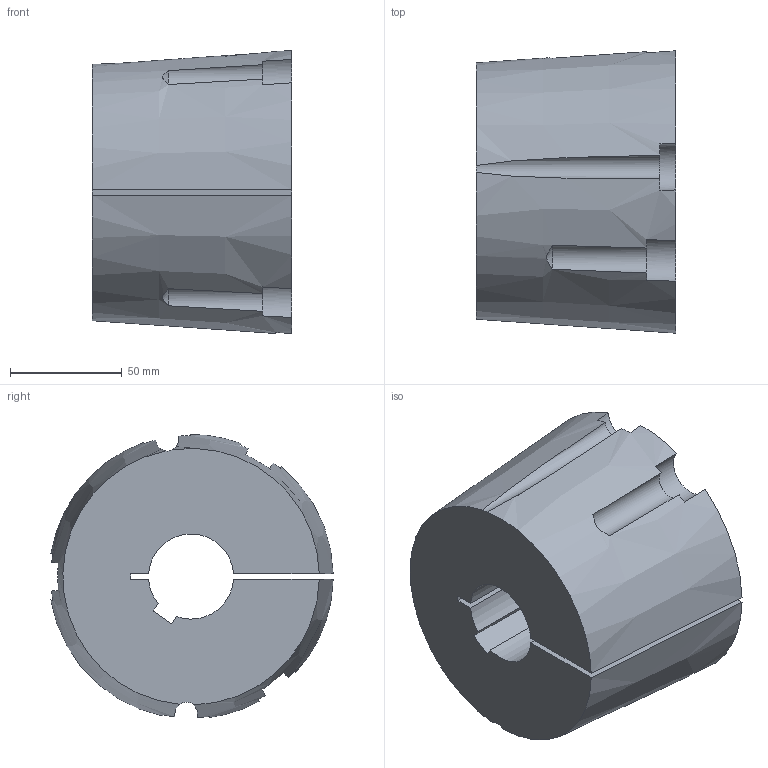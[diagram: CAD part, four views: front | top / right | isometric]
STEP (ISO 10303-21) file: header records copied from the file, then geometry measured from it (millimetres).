
FILE_DESCRIPTION( ( 'STEP AP203' ), '1' );
FILE_NAME( 'D:/export/antriebselemente/spannbuchsen_und_spannsaetze/taper-spannbuchsen_1008_bis_5050/taper-spannbuchsen_62251038Isometric_206.stp', '2018-12-11T11:11:26', ( '' ), ( '' ), ' ', 'PARTsolutions', ' ' );
FILE_SCHEMA( ( 'CONFIG_CONTROL_DESIGN' ) );
Length unit declared in the file: millimetre
Products named in the file (1): _taper-spannbuchsen_62251038
Bounding box: 89 x 126.13 x 126.46 mm (x, y, z)
Volume: 882500.2 mm3; surface area: 75626.4 mm2
Topology: 1 solids, 1 shells, 34 faces, 96 edges, 64 vertices
Faces by surface type: plane 15, cylinder 13, cone 6
Entity records: 1315 total; most frequent: CARTESIAN_POINT 391, ORIENTED_EDGE 192, DIRECTION 186, EDGE_CURVE 96, AXIS2_PLACEMENT_3D 80, VERTEX_POINT 64, CIRCLE 45, ADVANCED_FACE 34
